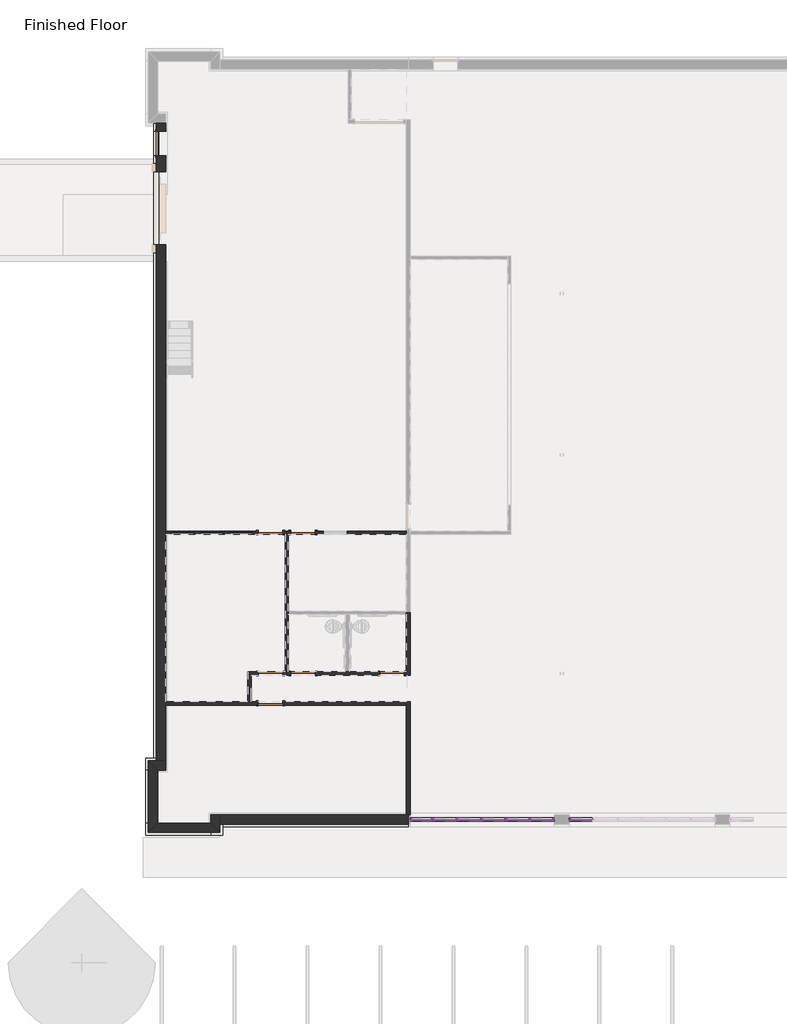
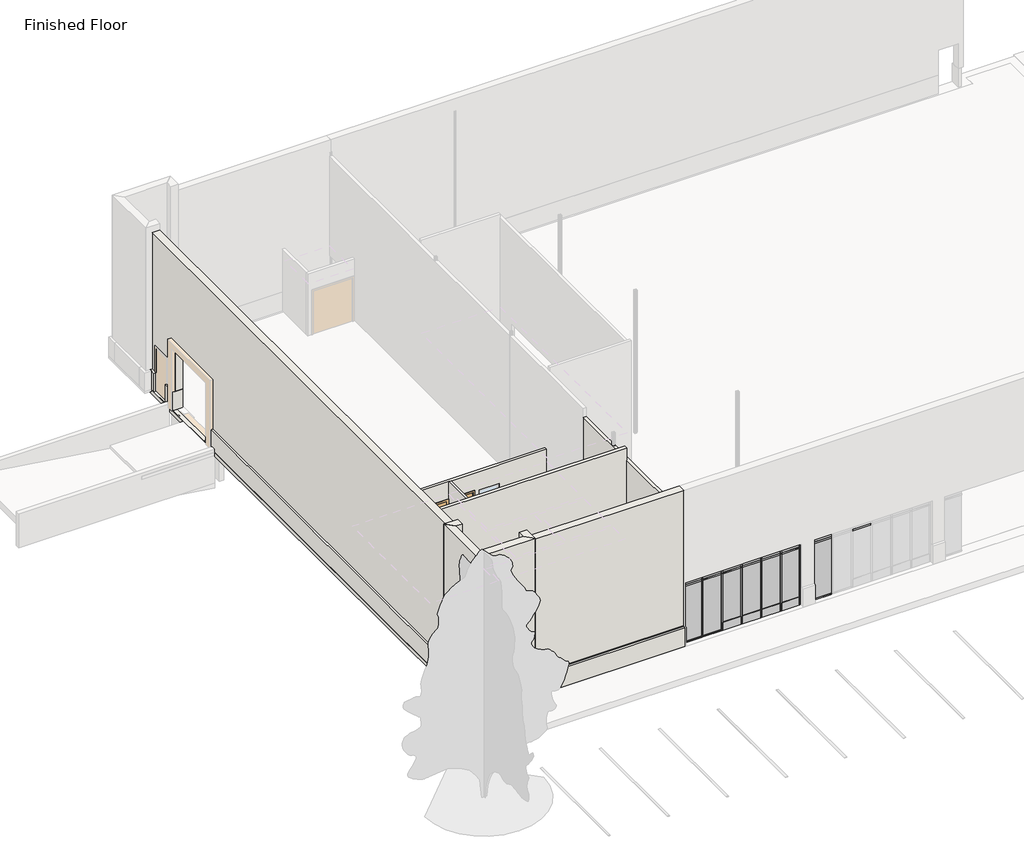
# One storey, part 1 of 6: 38 members, 21 walls, 14 plates, 6 doors, 3 windows.
"""IFC4 building model written with IfcOpenShell, lengths in millimetres."""

from ifc_helpers import new_model, si_unit, frame, origin, origin_with_axes, place, context, project, spatial, polyline, outline, extrude, faceted_brep, transform, mapped, element, save
from components import door_805e9a83, door_aa02eb04, door_9814c99b, member_d2e7e466, member_7db1855a, member_069002c8, member_a75f139a, member_8a16213d, member_a608d019, member_c17f1be2, member_ad567e07, member_f0d8dbf2, member_eb4c3d57, rectangular_mullion_tall_mullion_dc5872ae, rectangular_mullion_tall_mullion_643de06f, system_panel_glazed_00e77426, system_panel_glazed_d5ca8191, system_panel_glazed_9d8b6f53, system_panel_glazed_0eb5479c, system_panel_glazed_0c1d7574, system_panel_glazed_61942ae4, system_panel_glazed_5c8ca9a5, system_panel_glazed_895e459d, window_51f22951

model = new_model("IFC4")

# Units and contexts
model_context = context("Model", 3, world=origin())
ifc_project = project(units=[si_unit("LENGTHUNIT", "METRE", prefix="MILLI")], contexts=[model_context])

# Site, building, storey
site = spatial("IfcSite", under=ifc_project)
building = spatial("IfcBuilding", under=site)
storey = spatial("IfcBuildingStorey", under=building, Name="Finished Floor", Elevation=0.0)

# Doors
placement = place(None, origin())
door_shape = door_805e9a83(model_context)
element("IfcDoor", 1, ObjectType="Single-Flush : 36\" x 84\"", at=placement, inside=storey, context=model_context, shape_type="MappedRepresentation", body=[
    mapped(door_shape, transform((-16912.4352721, -8735.5875557, 0.0), x_axis=(-1.0, 0.0, 0.0), y_axis=(0.0, -1.0, 0.0), z_axis=(0.0, 0.0, 1.0))),
])
element("IfcDoor", 2, ObjectType="Single-Flush : 36\" x 84\"", at=placement, inside=storey, context=model_context, shape_type="MappedRepresentation", body=[
    mapped(door_shape, transform((-18131.6352721, -3439.6875557, 0.0), x_axis=(1.0, 0.0, 0.0), y_axis=(0.0, 1.0, 0.0), z_axis=(0.0, 0.0, 1.0))),
])
door_2_shape = door_aa02eb04(model_context)
element("IfcDoor", 3, ObjectType="Single-Flush : 36\" x 84\"", at=placement, inside=storey, context=model_context, shape_type="MappedRepresentation", body=[
    mapped(door_2_shape, transform((-13562.8102721, -8735.5875557, 0.0), x_axis=(1.0, 0.0, 0.0), y_axis=(0.0, 1.0, 0.0), z_axis=(0.0, 0.0, 1.0))),
])
element("IfcDoor", 4, ObjectType="Single-Flush : 36\" x 84\" 20Min", at=placement, inside=storey, context=model_context, shape_type="MappedRepresentation", body=[
    mapped(door_2_shape, transform((-18131.6352721, -8735.5875557, 0.0), x_axis=(1.0, 0.0, 0.0), y_axis=(0.0, 1.0, 0.0), z_axis=(0.0, 0.0, 1.0))),
])
element("IfcDoor", 5, ObjectType="Single-Flush : 36\" x 84\" 20Min", at=placement, inside=storey, context=model_context, shape_type="MappedRepresentation", body=[
    mapped(door_2_shape, transform((-16912.4352721, -3439.6875557, 0.0), x_axis=(-1.0, 0.0, 0.0), y_axis=(0.0, -1.0, 0.0), z_axis=(0.0, 0.0, 1.0))),
])
door_3_shape = door_9814c99b(model_context)
element("IfcDoor", 6, ObjectType="Single-Flush : 36\" x 84\" 20Min", at=placement, inside=storey, context=model_context, shape_type="MappedRepresentation", body=[
    mapped(door_3_shape, transform((-18131.6352721, -9862.7125557, 0.0), x_axis=(1.0, 0.0, 0.0), y_axis=(0.0, 1.0, 0.0), z_axis=(0.0, 0.0, 1.0))),
])

# Members
member_shape = member_d2e7e466(model_context)
element("IfcMember", 7, ObjectType="Rectangular Mullion : 2.5\" x 5\" rectangular", at=placement, inside=storey, context=model_context, shape_type="MappedRepresentation", body=[
    mapped(member_shape, transform((-9254.3352721, -14230.7188057, 3048.0), x_axis=(0.0, 0.0, 1.0), y_axis=(0.0, 1.0, 0.0), z_axis=(-1.0, 0.0, 0.0))),
])
element("IfcMember", 8, ObjectType="Rectangular Mullion : 2.5\" x 5\" rectangular", at=placement, inside=storey, context=model_context, shape_type="MappedRepresentation", body=[
    mapped(member_shape, transform((-10168.7352721, -14230.7188057, 3048.0), x_axis=(0.0, 0.0, 1.0), y_axis=(0.0, 1.0, 0.0), z_axis=(-1.0, 0.0, 0.0))),
])
element("IfcMember", 9, ObjectType="Rectangular Mullion : 2.5\" x 5\" rectangular", at=placement, inside=storey, context=model_context, shape_type="MappedRepresentation", body=[
    mapped(member_shape, transform((-11083.1352721, -14230.7188057, 3048.0), x_axis=(0.0, 0.0, 1.0), y_axis=(0.0, 1.0, 0.0), z_axis=(-1.0, 0.0, 0.0))),
])
element("IfcMember", 10, ObjectType="Rectangular Mullion : 2.5\" x 5\" rectangular", at=placement, inside=storey, context=model_context, shape_type="MappedRepresentation", body=[
    mapped(member_shape, transform((-11997.5352721, -14230.7188057, 3048.0), x_axis=(0.0, 0.0, 1.0), y_axis=(0.0, 1.0, 0.0), z_axis=(-1.0, 0.0, 0.0))),
])
member_2_shape = member_7db1855a(model_context)
element("IfcMember", 11, ObjectType="Rectangular Mullion : 2.5\" x 5\" rectangular", at=placement, inside=storey, context=model_context, shape_type="MappedRepresentation", body=[
    mapped(member_2_shape, transform((-9254.3352721, -14230.7188057, 2813.05), x_axis=(0.0, 0.0, 1.0), y_axis=(0.0, 1.0, 0.0), z_axis=(-1.0, 0.0, 0.0))),
])
element("IfcMember", 12, ObjectType="Rectangular Mullion : 2.5\" x 5\" rectangular", at=placement, inside=storey, context=model_context, shape_type="MappedRepresentation", body=[
    mapped(member_2_shape, transform((-10168.7352721, -14230.7188057, 2813.05), x_axis=(0.0, 0.0, 1.0), y_axis=(0.0, 1.0, 0.0), z_axis=(-1.0, 0.0, 0.0))),
])
element("IfcMember", 13, ObjectType="Rectangular Mullion : 2.5\" x 5\" rectangular", at=placement, inside=storey, context=model_context, shape_type="MappedRepresentation", body=[
    mapped(member_2_shape, transform((-11083.1352721, -14230.7188057, 2813.05), x_axis=(0.0, 0.0, 1.0), y_axis=(0.0, 1.0, 0.0), z_axis=(-1.0, 0.0, 0.0))),
])
element("IfcMember", 14, ObjectType="Rectangular Mullion : 2.5\" x 5\" rectangular", at=placement, inside=storey, context=model_context, shape_type="MappedRepresentation", body=[
    mapped(member_2_shape, transform((-5037.9352721, -14230.7188057, 2813.05), x_axis=(0.0, 0.0, 1.0), y_axis=(0.0, 1.0, 0.0), z_axis=(-1.0, 0.0, 0.0))),
])
element("IfcMember", 15, ObjectType="Rectangular Mullion : 2.5\" x 5\" rectangular", at=placement, inside=storey, context=model_context, shape_type="MappedRepresentation", body=[
    mapped(member_2_shape, transform((-11997.5352721, -14230.7188057, 2813.05), x_axis=(0.0, 0.0, 1.0), y_axis=(0.0, 1.0, 0.0), z_axis=(-1.0, 0.0, 0.0))),
])
element("IfcMember", 16, ObjectType="Rectangular Mullion : 2.5\" x 5\" rectangular", at=placement, inside=storey, context=model_context, shape_type="MappedRepresentation", body=[
    mapped(member_shape, transform((-11146.6352721, -14230.7188057, 0.0), x_axis=(0.0, 0.0, -1.0), y_axis=(0.0, 1.0, 0.0), z_axis=(1.0, 0.0, 0.0))),
])
member_3_shape = member_069002c8(model_context)
element("IfcMember", 17, ObjectType="Rectangular Mullion : 2.5\" x 5\" rectangular", at=placement, inside=storey, context=model_context, shape_type="MappedRepresentation", body=[
    mapped(member_3_shape, transform((-8371.6852721, -14230.7188057, 0.0), x_axis=(-1.0, 0.0, 0.0), y_axis=(0.0, 1.0, 0.0), z_axis=(0.0, 0.0, -1.0))),
])
element("IfcMember", 18, ObjectType="Rectangular Mullion : 2.5\" x 5\" rectangular", at=placement, inside=storey, context=model_context, shape_type="MappedRepresentation", body=[
    mapped(member_3_shape, transform((-9286.0852721, -14230.7188057, 0.0), x_axis=(-1.0, 0.0, 0.0), y_axis=(0.0, 1.0, 0.0), z_axis=(0.0, 0.0, -1.0))),
])
element("IfcMember", 19, ObjectType="Rectangular Mullion : 2.5\" x 5\" rectangular", at=placement, inside=storey, context=model_context, shape_type="MappedRepresentation", body=[
    mapped(member_3_shape, transform((-10200.4852721, -14230.7188057, 0.0), x_axis=(-1.0, 0.0, 0.0), y_axis=(0.0, 1.0, 0.0), z_axis=(0.0, 0.0, -1.0))),
])
element("IfcMember", 20, ObjectType="Rectangular Mullion : 2.5\" x 5\" rectangular", at=placement, inside=storey, context=model_context, shape_type="MappedRepresentation", body=[
    mapped(member_3_shape, transform((-11114.8852721, -14230.7188057, 0.0), x_axis=(-1.0, 0.0, 0.0), y_axis=(0.0, 1.0, 0.0), z_axis=(0.0, 0.0, -1.0))),
])
element("IfcMember", 21, ObjectType="Rectangular Mullion : 2.5\" x 5\" rectangular", at=placement, inside=storey, context=model_context, shape_type="MappedRepresentation", body=[
    mapped(member_3_shape, transform((-12029.2852721, -14230.7188057, 0.0), x_axis=(-1.0, 0.0, 0.0), y_axis=(0.0, 1.0, 0.0), z_axis=(0.0, 0.0, -1.0))),
])
member_4_shape = member_a75f139a(model_context)
element("IfcMember", 22, ObjectType="Rectangular Mullion : 2.5\" x 5\" rectangular", at=placement, inside=storey, context=model_context, shape_type="MappedRepresentation", body=[
    mapped(member_4_shape, transform((-8371.6852721, -14230.7188057, 2813.05), x_axis=(-1.0, 0.0, 0.0), y_axis=(0.0, 1.0, 0.0), z_axis=(0.0, 0.0, -1.0))),
])
element("IfcMember", 23, ObjectType="Rectangular Mullion : 2.5\" x 5\" rectangular", at=placement, inside=storey, context=model_context, shape_type="MappedRepresentation", body=[
    mapped(member_4_shape, transform((-9286.0852721, -14230.7188057, 2813.05), x_axis=(-1.0, 0.0, 0.0), y_axis=(0.0, 1.0, 0.0), z_axis=(0.0, 0.0, -1.0))),
])
element("IfcMember", 24, ObjectType="Rectangular Mullion : 2.5\" x 5\" rectangular", at=placement, inside=storey, context=model_context, shape_type="MappedRepresentation", body=[
    mapped(member_4_shape, transform((-10200.4852721, -14230.7188057, 2813.05), x_axis=(-1.0, 0.0, 0.0), y_axis=(0.0, 1.0, 0.0), z_axis=(0.0, 0.0, -1.0))),
])
element("IfcMember", 25, ObjectType="Rectangular Mullion : 2.5\" x 5\" rectangular", at=placement, inside=storey, context=model_context, shape_type="MappedRepresentation", body=[
    mapped(member_4_shape, transform((-11114.8852721, -14230.7188057, 2813.05), x_axis=(-1.0, 0.0, 0.0), y_axis=(0.0, 1.0, 0.0), z_axis=(0.0, 0.0, -1.0))),
])
element("IfcMember", 26, ObjectType="Rectangular Mullion : 2.5\" x 5\" rectangular", at=placement, inside=storey, context=model_context, shape_type="MappedRepresentation", body=[
    mapped(member_4_shape, transform((-12029.2852721, -14230.7188057, 2813.05), x_axis=(-1.0, 0.0, 0.0), y_axis=(0.0, 1.0, 0.0), z_axis=(0.0, 0.0, -1.0))),
])
member_5_shape = member_8a16213d(model_context)
element("IfcMember", 27, ObjectType="Rectangular Mullion : 2.5\" x 5\" rectangular", at=placement, inside=storey, context=model_context, shape_type="MappedRepresentation", body=[
    mapped(member_5_shape, transform((-12883.3602721, -14230.7188057, 0.0), x_axis=(-1.0, 0.0, 0.0), y_axis=(0.0, 1.0, 0.0), z_axis=(0.0, 0.0, -1.0))),
])
element("IfcMember", 28, ObjectType="Rectangular Mullion : 2.5\" x 5\" rectangular", at=placement, inside=storey, context=model_context, shape_type="MappedRepresentation", body=[
    mapped(member_5_shape, transform((-6898.4852721, -14230.7188057, 0.0), x_axis=(-1.0, 0.0, 0.0), y_axis=(0.0, 1.0, 0.0), z_axis=(0.0, 0.0, -1.0))),
])
member_6_shape = member_a608d019(model_context)
element("IfcMember", 29, ObjectType="Rectangular Mullion : 2.5\" x 5\" rectangular", at=placement, inside=storey, context=model_context, shape_type="MappedRepresentation", body=[
    mapped(member_6_shape, transform((-12883.3602721, -14230.7188057, 2813.05), x_axis=(-1.0, 0.0, 0.0), y_axis=(0.0, 1.0, 0.0), z_axis=(0.0, 0.0, -1.0))),
])
element("IfcMember", 30, ObjectType="Rectangular Mullion : 2.5\" x 5\" rectangular", at=placement, inside=storey, context=model_context, shape_type="MappedRepresentation", body=[
    mapped(member_6_shape, transform((-6898.4852721, -14230.7188057, 2813.05), x_axis=(-1.0, 0.0, 0.0), y_axis=(0.0, 1.0, 0.0), z_axis=(0.0, 0.0, -1.0))),
])
element("IfcMember", 31, ObjectType="Rectangular Mullion : 2.5\" x 5\" rectangular", at=placement, inside=storey, context=model_context, shape_type="MappedRepresentation", body=[
    mapped(member_6_shape, transform((-7457.2852721, -14230.7188057, 3048.0), x_axis=(1.0, 0.0, 0.0), y_axis=(0.0, 1.0, 0.0), z_axis=(0.0, 0.0, 1.0))),
])
element("IfcMember", 32, ObjectType="Rectangular Mullion : 2.5\" x 5\" rectangular", at=placement, inside=storey, context=model_context, shape_type="MappedRepresentation", body=[
    mapped(member_5_shape, transform((-7457.2852721, -14230.7188057, 2813.05), x_axis=(1.0, 0.0, 0.0), y_axis=(0.0, 1.0, 0.0), z_axis=(0.0, 0.0, 1.0))),
])
member_7_shape = member_c17f1be2(model_context)
element("IfcMember", 33, ObjectType="Rectangular Mullion : 2.5\" x 5\" rectangular", at=placement, inside=storey, context=model_context, shape_type="MappedRepresentation", body=[
    mapped(member_7_shape, transform((-8339.9352721, -14230.7188057, 3048.0), x_axis=(0.0, 0.0, 1.0), y_axis=(0.0, 1.0, 0.0), z_axis=(-1.0, 0.0, 0.0))),
])
element("IfcMember", 34, ObjectType="Rectangular Mullion : 2.5\" x 5\" rectangular", at=placement, inside=storey, context=model_context, shape_type="MappedRepresentation", body=[
    mapped(member_7_shape, transform((-6834.9852721, -14230.7188057, 3048.0), x_axis=(0.0, 0.0, 1.0), y_axis=(0.0, 1.0, 0.0), z_axis=(-1.0, 0.0, 0.0))),
])
member_8_shape = member_ad567e07(model_context)
element("IfcMember", 35, ObjectType="Rectangular Mullion : 2.5\" x 5\" rectangular", at=placement, inside=storey, context=model_context, shape_type="MappedRepresentation", body=[
    mapped(member_8_shape, transform((-8339.9352721, -14230.7188057, 2813.05), x_axis=(0.0, 0.0, 1.0), y_axis=(0.0, 1.0, 0.0), z_axis=(-1.0, 0.0, 0.0))),
])
element("IfcMember", 36, ObjectType="Rectangular Mullion : 2.5\" x 5\" rectangular", at=placement, inside=storey, context=model_context, shape_type="MappedRepresentation", body=[
    mapped(member_8_shape, transform((-6834.9852721, -14230.7188057, 2813.05), x_axis=(0.0, 0.0, 1.0), y_axis=(0.0, 1.0, 0.0), z_axis=(-1.0, 0.0, 0.0))),
])
element("IfcMember", 37, ObjectType="Rectangular Mullion : 2.5\" x 5\" rectangular", at=placement, inside=storey, context=model_context, shape_type="MappedRepresentation", body=[
    mapped(member_7_shape, transform((-6015.8352721, -14230.7188057, 0.0), x_axis=(0.0, 0.0, -1.0), y_axis=(0.0, 1.0, 0.0), z_axis=(1.0, 0.0, 0.0))),
])
member_9_shape = member_f0d8dbf2(model_context)
element("IfcMember", 38, ObjectType="Rectangular Mullion : 2.5\" x 5\" rectangular", at=placement, inside=storey, context=model_context, shape_type="MappedRepresentation", body=[
    mapped(member_9_shape, transform((-12819.8602721, -14230.7188057, 3048.0), x_axis=(0.0, 0.0, 1.0), y_axis=(0.0, 1.0, 0.0), z_axis=(-1.0, 0.0, 0.0))),
])
element("IfcMember", 39, ObjectType="Rectangular Mullion : 2.5\" x 5\" rectangular", at=placement, inside=storey, context=model_context, shape_type="MappedRepresentation", body=[
    mapped(member_9_shape, transform((-12061.0352721, -14230.7188057, 0.0), x_axis=(0.0, 0.0, -1.0), y_axis=(0.0, 1.0, 0.0), z_axis=(1.0, 0.0, 0.0))),
])
member_10_shape = member_eb4c3d57(model_context)
element("IfcMember", 40, ObjectType="Rectangular Mullion : 2.5\" x 5\" rectangular", at=placement, inside=storey, context=model_context, shape_type="MappedRepresentation", body=[
    mapped(member_10_shape, transform((-12819.8602721, -14230.7188057, 2813.05), x_axis=(0.0, 0.0, 1.0), y_axis=(0.0, 1.0, 0.0), z_axis=(-1.0, 0.0, 0.0))),
])
rectangular_mullion_tall_mullion_shape = rectangular_mullion_tall_mullion_dc5872ae(model_context)
element("IfcMember", 41, ObjectType="Rectangular Mullion : Tall Mullion", at=placement, inside=storey, context=model_context, shape_type="MappedRepresentation", body=[
    mapped(rectangular_mullion_tall_mullion_shape, transform((-8403.4352721, -14230.7188057, 0.0), x_axis=(0.0, 0.0, -1.0), y_axis=(0.0, 1.0, 0.0), z_axis=(1.0, 0.0, 0.0))),
])
element("IfcMember", 42, ObjectType="Rectangular Mullion : Tall Mullion", at=placement, inside=storey, context=model_context, shape_type="MappedRepresentation", body=[
    mapped(rectangular_mullion_tall_mullion_shape, transform((-9317.8352721, -14230.7188057, 0.0), x_axis=(0.0, 0.0, -1.0), y_axis=(0.0, 1.0, 0.0), z_axis=(1.0, 0.0, 0.0))),
])
element("IfcMember", 43, ObjectType="Rectangular Mullion : Tall Mullion", at=placement, inside=storey, context=model_context, shape_type="MappedRepresentation", body=[
    mapped(rectangular_mullion_tall_mullion_shape, transform((-10232.2352721, -14230.7188057, 0.0), x_axis=(0.0, 0.0, -1.0), y_axis=(0.0, 1.0, 0.0), z_axis=(1.0, 0.0, 0.0))),
])
rectangular_mullion_tall_mullion_2_shape = rectangular_mullion_tall_mullion_643de06f(model_context)
element("IfcMember", 44, ObjectType="Rectangular Mullion : Tall Mullion", at=placement, inside=storey, context=model_context, shape_type="MappedRepresentation", body=[
    mapped(rectangular_mullion_tall_mullion_2_shape, transform((-7520.7852721, -14230.7188057, 0.0), x_axis=(0.0, 0.0, -1.0), y_axis=(0.0, 1.0, 0.0), z_axis=(1.0, 0.0, 0.0))),
])

# Plates
system_panel_glazed_shape = system_panel_glazed_00e77426(model_context)
element("IfcPlate", 45, ObjectType="System Panel : Glazed", at=placement, inside=storey, context=model_context, shape_type="MappedRepresentation", body=[
    mapped(system_panel_glazed_shape, transform((-8828.8852721, -14230.7188057, 406.4), x_axis=(-1.0, 0.0, 0.0), y_axis=(0.0, -1.0, 0.0), z_axis=(0.0, 0.0, 1.0))),
])
element("IfcPlate", 46, ObjectType="System Panel : Glazed", at=placement, inside=storey, context=model_context, shape_type="MappedRepresentation", body=[
    mapped(system_panel_glazed_shape, transform((-9743.2852721, -14230.7188057, 406.4), x_axis=(-1.0, 0.0, 0.0), y_axis=(0.0, -1.0, 0.0), z_axis=(0.0, 0.0, 1.0))),
])
element("IfcPlate", 47, ObjectType="System Panel : Glazed", at=placement, inside=storey, context=model_context, shape_type="MappedRepresentation", body=[
    mapped(system_panel_glazed_shape, transform((-10657.6852721, -14230.7188057, 406.4), x_axis=(-1.0, 0.0, 0.0), y_axis=(0.0, -1.0, 0.0), z_axis=(0.0, 0.0, 1.0))),
])
system_panel_glazed_2_shape = system_panel_glazed_d5ca8191(model_context)
element("IfcPlate", 48, ObjectType="System Panel : Glazed", at=placement, inside=storey, context=model_context, shape_type="MappedRepresentation", body=[
    mapped(system_panel_glazed_2_shape, transform((-8828.8852721, -14230.7188057, 2844.8), x_axis=(-1.0, 0.0, 0.0), y_axis=(0.0, -1.0, 0.0), z_axis=(0.0, 0.0, 1.0))),
])
element("IfcPlate", 49, ObjectType="System Panel : Glazed", at=placement, inside=storey, context=model_context, shape_type="MappedRepresentation", body=[
    mapped(system_panel_glazed_2_shape, transform((-9743.2852721, -14230.7188057, 2844.8), x_axis=(-1.0, 0.0, 0.0), y_axis=(0.0, -1.0, 0.0), z_axis=(0.0, 0.0, 1.0))),
])
element("IfcPlate", 50, ObjectType="System Panel : Glazed", at=placement, inside=storey, context=model_context, shape_type="MappedRepresentation", body=[
    mapped(system_panel_glazed_2_shape, transform((-10657.6852721, -14230.7188057, 2844.8), x_axis=(-1.0, 0.0, 0.0), y_axis=(0.0, -1.0, 0.0), z_axis=(0.0, 0.0, 1.0))),
])
element("IfcPlate", 51, ObjectType="System Panel : Glazed", at=placement, inside=storey, context=model_context, shape_type="MappedRepresentation", body=[
    mapped(system_panel_glazed_2_shape, transform((-11572.0852721, -14230.7188057, 2844.8), x_axis=(-1.0, 0.0, 0.0), y_axis=(0.0, -1.0, 0.0), z_axis=(0.0, 0.0, 1.0))),
])
system_panel_glazed_3_shape = system_panel_glazed_9d8b6f53(model_context)
element("IfcPlate", 52, ObjectType="System Panel : Glazed", at=placement, inside=storey, context=model_context, shape_type="MappedRepresentation", body=[
    mapped(system_panel_glazed_3_shape, transform((-11572.0852721, -14230.7188057, 63.5), x_axis=(-1.0, 0.0, 0.0), y_axis=(0.0, -1.0, 0.0), z_axis=(0.0, 0.0, 1.0))),
])
system_panel_glazed_4_shape = system_panel_glazed_0eb5479c(model_context)
element("IfcPlate", 53, ObjectType="System Panel : Glazed", at=placement, inside=storey, context=model_context, shape_type="MappedRepresentation", body=[
    mapped(system_panel_glazed_4_shape, transform((-7930.3602721, -14230.7188057, 406.4), x_axis=(-1.0, 0.0, 0.0), y_axis=(0.0, -1.0, 0.0), z_axis=(0.0, 0.0, 1.0))),
])
system_panel_glazed_5_shape = system_panel_glazed_0c1d7574(model_context)
element("IfcPlate", 54, ObjectType="System Panel : Glazed", at=placement, inside=storey, context=model_context, shape_type="MappedRepresentation", body=[
    mapped(system_panel_glazed_5_shape, transform((-7930.3602721, -14230.7188057, 2844.8), x_axis=(-1.0, 0.0, 0.0), y_axis=(0.0, -1.0, 0.0), z_axis=(0.0, 0.0, 1.0))),
])
element("IfcPlate", 55, ObjectType="System Panel : Glazed", at=placement, inside=storey, context=model_context, shape_type="MappedRepresentation", body=[
    mapped(system_panel_glazed_5_shape, transform((-6425.4102721, -14230.7188057, 2844.8), x_axis=(-1.0, 0.0, 0.0), y_axis=(0.0, -1.0, 0.0), z_axis=(0.0, 0.0, 1.0))),
])
system_panel_glazed_6_shape = system_panel_glazed_61942ae4(model_context)
element("IfcPlate", 56, ObjectType="System Panel : Glazed", at=placement, inside=storey, context=model_context, shape_type="MappedRepresentation", body=[
    mapped(system_panel_glazed_6_shape, transform((-6425.4102721, -14230.7188057, 63.5), x_axis=(-1.0, 0.0, 0.0), y_axis=(0.0, -1.0, 0.0), z_axis=(0.0, 0.0, 1.0))),
])
system_panel_glazed_7_shape = system_panel_glazed_5c8ca9a5(model_context)
element("IfcPlate", 57, ObjectType="System Panel : Glazed", at=placement, inside=storey, context=model_context, shape_type="MappedRepresentation", body=[
    mapped(system_panel_glazed_7_shape, transform((-12440.4477721, -14230.7188057, 63.5), x_axis=(-1.0, 0.0, 0.0), y_axis=(0.0, -1.0, 0.0), z_axis=(0.0, 0.0, 1.0))),
])
system_panel_glazed_8_shape = system_panel_glazed_895e459d(model_context)
element("IfcPlate", 58, ObjectType="System Panel : Glazed", at=placement, inside=storey, context=model_context, shape_type="MappedRepresentation", body=[
    mapped(system_panel_glazed_8_shape, transform((-12440.4477721, -14230.7188057, 2844.8), x_axis=(-1.0, 0.0, 0.0), y_axis=(0.0, -1.0, 0.0), z_axis=(0.0, 0.0, 1.0))),
])

# Walls
element("IfcWall", 59, ObjectType="Exterior - Brick on Mtl. Stud", at=placement, inside=storey, context=model_context, shape_type="SweptSolid", body=[
    extrude(outline(polyline([(-14054.5063057, 7620.0), (-14054.5063057, 914.4), (-14397.4063057, 914.4), (-14397.4063057, 984.25), (-14406.9313057, 984.25), (-14406.9313057, 7620.0), (-14054.5063057, 7620.0)])), frame((-20031.8727721, 0.0, 0.0), z_axis=(1.0, 0.0, 0.0), x_axis=(0.0, 1.0, 0.0)), (0.0, 0.0, 1.0), 7078.6625),
])
element("IfcWall", 60, ObjectType="Exterior - Brick on Mtl. Stud", at=placement, inside=storey, context=model_context, shape_type="SweptSolid", body=[
    extrude(outline(polyline([(-20384.2977721, -14359.3063057), (-20384.2977721, -14054.5063057), (-20031.8727721, -14054.5063057), (-20031.8727721, -14711.7313057), (-20384.2977721, -14359.3063057)])), frame((0.0, 0.0, 914.4), z_axis=(0.0, 0.0, 1.0), x_axis=(1.0, 0.0, 0.0)), (0.0, 0.0, 1.0), 7010.4),
])
element("IfcWall", 61, ObjectType="Exterior - Brick on Mtl. Stud", at=placement, inside=storey, context=model_context, shape_type="SweptSolid", body=[
    extrude(outline(polyline([(-22371.8477721, -14359.3063057), (-20384.2977721, -14359.3063057), (-20031.8727721, -14711.7313057), (-22724.2727721, -14711.7313057), (-22371.8477721, -14359.3063057)])), frame((0.0, 0.0, 914.4), z_axis=(0.0, 0.0, 1.0), x_axis=(1.0, 0.0, 0.0)), (0.0, 0.0, 1.0), 7010.4),
])
element("IfcWall", 62, ObjectType="Exterior - Brick on Mtl. Stud", at=placement, inside=storey, context=model_context, shape_type="SweptSolid", body=[
    extrude(outline(polyline([(-22371.8477721, -12371.7563057), (-22371.8477721, -14359.3063057), (-22724.2727721, -14711.7313057), (-22724.2727721, -12019.3313057), (-22371.8477721, -12371.7563057)])), frame((0.0, 0.0, 914.4), z_axis=(0.0, 0.0, 1.0), x_axis=(1.0, 0.0, 0.0)), (0.0, 0.0, 1.0), 7010.4),
])
element("IfcWall", 63, ObjectType="Exterior - Brick on Mtl. Stud", at=placement, inside=storey, context=model_context, shape_type="SweptSolid", body=[
    extrude(outline(polyline([(-22067.0477721, -12371.7563057), (-22371.8477721, -12371.7563057), (-22724.2727721, -12019.3313057), (-22067.0477721, -12019.3313057), (-22067.0477721, -12371.7563057)])), frame((0.0, 0.0, 914.4), z_axis=(0.0, 0.0, 1.0), x_axis=(1.0, 0.0, 0.0)), (0.0, 0.0, 1.0), 7010.4),
])
element("IfcWall", 64, ObjectType="Exterior - Brick on Mtl. Stud", at=placement, inside=storey, context=model_context, shape_type="SweptSolid", body=[
    extrude(outline(polyline([(11958.2686943, 7620.0), (11958.2686943, 914.4), (11653.4686943, 914.4), (11653.4686943, 2133.6), (10739.0686943, 2133.6), (10739.0686943, 914.4), (10129.4686943, 914.4), (10129.4686943, 3048.0), (7386.2686943, 3048.0), (7386.2686943, 914.4), (-12019.3313057, 914.4), (-12019.3313057, 7620.0), (11958.2686943, 7620.0)])), frame((-22419.4727721, 0.0, 0.0), z_axis=(1.0, 0.0, 0.0), x_axis=(0.0, 1.0, 0.0)), (0.0, 0.0, 1.0), 352.425),
])
element("IfcWall", 65, ObjectType="Exterior - CMU on Mtl. Stud", at=placement, inside=storey, context=model_context, shape_type="Brep", body=[
    faceted_brep([(-12953.2102721, -14054.5063057, 0.0), (-13023.0602721, -14054.5063057, 0.0), (-20031.8727721, -14054.5063057, 0.0), (-20031.8727721, -14054.5063057, 914.4), (-12953.2102721, -14054.5063057, 914.4), (-12953.2102721, -14508.5313057, 0.0), (-12953.2102721, -14508.5313057, 914.4), (-20031.8727721, -14508.5313057, 914.4), (-20031.8727721, -14508.5313057, 0.0), (-20031.8727721, -14314.8563057, 0.0), (-20031.8727721, -14397.4063057, 914.4), (-12953.2102721, -14397.4063057, 914.4), (-12953.2102721, -14314.8563057, 0.0)], [[[0, 1, 2, 3, 4]], [[5, 6, 7, 8]], [[3, 2, 9, 8, 7, 10]], [[4, 3, 10, 7, 6, 11]], [[0, 4, 11, 6, 5, 12]], [[2, 1, 0, 12, 9]], [[12, 5, 8, 9]]]),
])
element("IfcWall", 66, ObjectType="Exterior - CMU on Mtl. Stud", at=placement, inside=storey, context=model_context, shape_type="Brep", body=[
    faceted_brep([(-20384.2977721, -14054.5063057, 0.0), (-20384.2977721, -14359.3063057, 0.0), (-20384.2977721, -14813.3313057, 0.0), (-20384.2977721, -14813.3313057, 914.4), (-20384.2977721, -14359.3063057, 914.4), (-20384.2977721, -14054.5063057, 914.4), (-19930.2727721, -14054.5063057, 0.0), (-19930.2727721, -14054.5063057, 914.4), (-19930.2727721, -14813.3313057, 914.4), (-19930.2727721, -14813.3313057, 0.0), (-20031.8727721, -14054.5063057, 914.4), (-20041.3977721, -14054.5063057, 914.4), (-20123.9477721, -14054.5063057, 0.0), (-20123.9477721, -14813.3313057, 0.0)], [[[0, 1, 2, 3, 4, 5]], [[6, 7, 8, 9]], [[5, 4, 3, 8, 7, 10, 11]], [[0, 5, 11, 10, 7, 6, 12]], [[3, 2, 13, 9, 8]], [[2, 1, 0, 12, 13]], [[12, 6, 9, 13]]]),
])
element("IfcWall", 67, ObjectType="Exterior - CMU on Mtl. Stud", at=placement, inside=storey, context=model_context, shape_type="Brep", body=[
    faceted_brep([(-20384.2977721, -14359.3063057, 0.0), (-22371.8477721, -14359.3063057, 0.0), (-22825.8727721, -14359.3063057, 0.0), (-22825.8727721, -14359.3063057, 914.4), (-22371.8477721, -14359.3063057, 914.4), (-20384.2977721, -14359.3063057, 914.4), (-20384.2977721, -14813.3313057, 0.0), (-20384.2977721, -14813.3313057, 914.4), (-22825.8727721, -14813.3313057, 914.4), (-22825.8727721, -14813.3313057, 0.0), (-20384.2977721, -14619.6563057, 0.0), (-22825.8727721, -14619.6563057, 0.0)], [[[0, 1, 2, 3, 4, 5]], [[6, 7, 8, 9]], [[5, 4, 3, 8, 7]], [[0, 5, 7, 6, 10]], [[3, 2, 11, 9, 8]], [[2, 1, 0, 10, 11]], [[10, 6, 9, 11]]]),
])
element("IfcWall", 68, ObjectType="Exterior - CMU on Mtl. Stud", at=placement, inside=storey, context=model_context, shape_type="SweptSolid", body=[
    extrude(outline(polyline([(0.0, -22371.8477721), (914.4, -22371.8477721), (914.4, -22825.8727721), (0.0, -22825.8727721), (0.0, -22632.1977721), (0.0, -22371.8477721)])), frame((0.0, -14359.3063057, 0.0), z_axis=(0.0, 1.0, 0.0), x_axis=(0.0, 0.0, 1.0)), (0.0, 0.0, 1.0), 1987.55),
])
element("IfcWall", 69, ObjectType="Exterior - CMU on Mtl. Stud", at=placement, inside=storey, context=model_context, shape_type="Brep", body=[
    faceted_brep([(-22825.8727721, -12371.7563057, 0.0), (-22371.8477721, -12371.7563057, 0.0), (-22067.0477721, -12371.7563057, 0.0), (-22067.0477721, -12371.7563057, 914.4), (-22371.8477721, -12371.7563057, 914.4), (-22825.8727721, -12371.7563057, 914.4), (-22825.8727721, -11917.7313057, 0.0), (-22825.8727721, -11917.7313057, 914.4), (-22067.0477721, -11917.7313057, 914.4), (-22067.0477721, -11917.7313057, 0.0), (-22067.0477721, -12111.4063057, 0.0), (-22067.0477721, -12019.3313057, 914.4), (-22067.0477721, -12028.8563057, 914.4), (-22825.8727721, -12111.4063057, 0.0)], [[[0, 1, 2, 3, 4, 5]], [[6, 7, 8, 9]], [[3, 2, 10, 9, 8, 11, 12]], [[5, 4, 3, 12, 11, 8, 7]], [[0, 5, 7, 6, 13]], [[2, 1, 0, 13, 10]], [[13, 6, 9, 10]]]),
])
element("IfcWall", 70, ObjectType="Exterior - CMU on Mtl. Stud", at=placement, inside=storey, context=model_context, shape_type="Brep", body=[
    faceted_brep([(-22067.0477721, 11958.2686943, 0.0), (-22067.0477721, 11958.2686943, 914.4), (-22067.0477721, 11653.4686943, 914.4), (-22067.0477721, 11653.4686943, 0.0), (-22067.0477721, -12019.3313057, 914.4), (-22067.0477721, -12019.3313057, 0.0), (-22067.0477721, -9932.5625557, 0.0), (-22067.0477721, -9792.8625557, 0.0), (-22067.0477721, -3500.0125557, 0.0), (-22067.0477721, -3379.3625557, 0.0), (-22067.0477721, 7386.2686943, 0.0), (-22067.0477721, 7386.2686943, 914.4), (-22067.0477721, 10739.0686943, 0.0), (-22067.0477721, 10739.0686943, 914.4), (-22067.0477721, 10129.4686943, 914.4), (-22067.0477721, 10129.4686943, 0.0), (-22521.0727721, 11958.2686943, 914.4), (-22521.0727721, 11958.2686943, -203.2), (-22521.0727721, -12019.3313057, -203.2), (-22521.0727721, -12019.3313057, 914.4), (-22521.0727721, 7386.2686943, 914.4), (-22521.0727721, 7386.2686943, 0.0), (-22521.0727721, 10129.4686943, 0.0), (-22521.0727721, 10129.4686943, 914.4), (-22521.0727721, 10739.0686943, 914.4), (-22521.0727721, 10739.0686943, 0.0), (-22521.0727721, 11653.4686943, 0.0), (-22521.0727721, 11653.4686943, 914.4), (-22327.3977721, 11958.2686943, 0.0), (-22327.3977721, 11958.2686943, -203.2), (-22419.4727721, 11958.2686943, 914.4), (-22409.9477721, 11958.2686943, 914.4), (-22419.4727721, -12019.3313057, 914.4), (-22409.9477721, -12019.3313057, 914.4), (-22409.9477721, 7386.2686943, 914.4), (-22419.4727721, 7386.2686943, 914.4), (-22419.4727721, 11653.4686943, 914.4), (-22409.9477721, 11653.4686943, 914.4), (-22409.9477721, 10739.0686943, 914.4), (-22419.4727721, 10739.0686943, 914.4), (-22419.4727721, 10129.4686943, 914.4), (-22409.9477721, 10129.4686943, 914.4), (-22327.3977721, -12019.3313057, -203.2), (-22327.3977721, -12019.3313057, 0.0), (-22327.3977721, 10739.0686943, 0.0), (-22327.3977721, 11653.4686943, 0.0), (-22327.3977721, 7386.2686943, 0.0), (-22327.3977721, 10129.4686943, 0.0)], [[[0, 1, 2, 3]], [[4, 5, 6, 7, 8, 9, 10, 11]], [[12, 13, 14, 15]], [[16, 17, 18, 19, 20, 21, 22, 23, 24, 25, 26, 27]], [[1, 0, 28, 29, 17, 16, 30, 31]], [[19, 32, 33, 4, 11, 34, 35, 20]], [[1, 31, 30, 16, 27, 36, 37, 2]], [[13, 38, 39, 24, 23, 40, 41, 14]], [[5, 4, 33, 32, 19, 18, 42, 43]], [[26, 25, 44, 45]], [[3, 2, 37, 36, 27, 26, 45]], [[13, 12, 44, 25, 24, 39, 38]], [[46, 21, 20, 35, 34, 11, 10]], [[22, 47, 15, 14, 41, 40, 23]], [[21, 46, 47, 22]], [[0, 3, 45, 28]], [[5, 43, 46, 10, 9, 8, 7, 6]], [[44, 12, 15, 47]], [[43, 42, 29, 28, 45, 44, 47, 46]], [[42, 18, 17, 29]]]),
])
element("IfcWall", 71, ObjectType="Interior - 5 1/2\" Partition", at=placement, inside=storey, context=model_context, shape_type="Brep", body=[
    faceted_brep([(-13105.6102721, -8795.9125557, 2133.6), (-13105.6102721, -8795.9125557, 0.0), (-13023.0602721, -8795.9125557, 0.0), (-13023.0602721, -8795.9125557, 2133.6), (-13023.0602721, -8795.9125557, 3048.0), (-15156.6602721, -8795.9125557, 3048.0), (-15156.6602721, -8795.9125557, 0.0), (-14020.0102721, -8795.9125557, 0.0), (-14020.0102721, -8795.9125557, 2133.6), (-13023.0602721, -8675.2625557, 0.0), (-13105.6102721, -8675.2625557, 0.0), (-13105.6102721, -8675.2625557, 2133.6), (-14020.0102721, -8675.2625557, 2133.6), (-14020.0102721, -8675.2625557, 0.0), (-15156.6602721, -8675.2625557, 0.0), (-15156.6602721, -8675.2625557, 3048.0), (-13023.0602721, -8675.2625557, 3048.0)], [[[0, 1, 2, 3, 4, 5, 6, 7, 8]], [[9, 10, 11, 12, 13, 14, 15, 16]], [[7, 6, 14, 13]], [[2, 1, 10, 9]], [[5, 4, 16, 15]], [[6, 5, 15, 14]], [[11, 10, 1, 0]], [[12, 11, 0, 8]], [[13, 12, 8, 7]], [[2, 9, 16, 4, 3]]]),
])
element("IfcWall", 72, ObjectType="Interior - 5 1/2\" Partition", at=placement, inside=storey, context=model_context, shape_type="Brep", body=[
    faceted_brep([(-17582.3602721, -3500.0125557, 0.0), (-17582.3602721, -6525.7875557, 0.0), (-17582.3602721, -6525.7875557, 3048.0), (-17582.3602721, -3500.0125557, 3048.0), (-17461.7102721, -3500.0125557, 0.0), (-17461.7102721, -3500.0125557, 3048.0), (-17461.7102721, -6395.6125557, 3048.0), (-17461.7102721, -6516.2625557, 3048.0), (-17461.7102721, -6525.7875557, 3048.0), (-17461.7102721, -6525.7875557, 0.0), (-17461.7102721, -6516.2625557, 0.0), (-17461.7102721, -6395.6125557, 0.0)], [[[0, 1, 2, 3]], [[4, 5, 6, 7, 8, 9, 10, 11]], [[1, 0, 4, 11, 10, 9]], [[2, 1, 9, 8]], [[3, 2, 8, 7, 6, 5]], [[0, 3, 5, 4]]]),
])
element("IfcWall", 73, ObjectType="Interior - 5 1/2\" Partition", at=placement, inside=storey, context=model_context, shape_type="Brep", body=[
    faceted_brep([(-17369.6352721, -8675.2625557, 2133.6), (-17369.6352721, -8675.2625557, 0.0), (-17461.7102721, -8675.2625557, 0.0), (-17522.0352721, -8675.2625557, 0.0), (-17522.0352721, -8675.2625557, 3048.0), (-17461.7102721, -8675.2625557, 3048.0), (-15328.1102721, -8675.2625557, 3048.0), (-15156.6602721, -8675.2625557, 3048.0), (-15156.6602721, -8675.2625557, 0.0), (-15328.1102721, -8675.2625557, 0.0), (-16455.2352721, -8675.2625557, 0.0), (-16455.2352721, -8675.2625557, 2133.6), (-17522.0352721, -8795.9125557, 0.0), (-17369.6352721, -8795.9125557, 0.0), (-17369.6352721, -8795.9125557, 2133.6), (-16455.2352721, -8795.9125557, 2133.6), (-16455.2352721, -8795.9125557, 0.0), (-15156.6602721, -8795.9125557, 0.0), (-15156.6602721, -8795.9125557, 3048.0), (-17522.0352721, -8795.9125557, 3048.0)], [[[0, 1, 2, 3, 4, 5, 6, 7, 8, 9, 10, 11]], [[12, 13, 14, 15, 16, 17, 18, 19]], [[10, 9, 8, 17, 16]], [[3, 2, 1, 13, 12]], [[4, 3, 12, 19]], [[7, 6, 5, 4, 19, 18]], [[8, 7, 18, 17]], [[14, 13, 1, 0]], [[15, 14, 0, 11]], [[16, 15, 11, 10]]]),
])
element("IfcWall", 74, ObjectType="Interior - 5 1/2\" Partition", at=placement, inside=storey, context=model_context, shape_type="SweptSolid", body=[
    extrude(outline(polyline([(-18979.3602721, -9792.8625557), (-18979.3602721, -8795.9125557), (-18858.7102721, -8795.9125557), (-18858.7102721, -9792.8625557), (-18979.3602721, -9792.8625557)])), origin_with_axes(), (0.0, 0.0, 1.0), 3048.0),
])
element("IfcWall", 75, ObjectType="Interior - 5 1/2\" Partition", at=placement, inside=storey, context=model_context, shape_type="Brep", body=[
    faceted_brep([(-17674.4352721, -3500.0125557, 0.0), (-17582.3602721, -3500.0125557, 0.0), (-17461.7102721, -3500.0125557, 0.0), (-17369.6352721, -3500.0125557, 0.0), (-17369.6352721, -3500.0125557, 2133.6), (-16455.2352721, -3500.0125557, 2133.6), (-16455.2352721, -3500.0125557, 0.0), (-13023.0602721, -3500.0125557, 0.0), (-13023.0602721, -3500.0125557, 3048.0), (-17461.7102721, -3500.0125557, 3048.0), (-17582.3602721, -3500.0125557, 3048.0), (-22067.0477721, -3500.0125557, 3048.0), (-22067.0477721, -3500.0125557, 0.0), (-18588.8352721, -3500.0125557, 0.0), (-18588.8352721, -3500.0125557, 2133.6), (-17674.4352721, -3500.0125557, 2133.6), (-20974.8477721, -3500.0125557, 2133.6), (-20974.8477721, -3500.0125557, 914.4), (-21889.2477721, -3500.0125557, 914.4), (-21889.2477721, -3500.0125557, 2133.6), (-19882.6477721, -3500.0125557, 2133.6), (-19882.6477721, -3500.0125557, 914.4), (-20797.0477721, -3500.0125557, 914.4), (-20797.0477721, -3500.0125557, 2133.6), (-18778.5415221, -3500.0125557, 2133.6), (-18778.5415221, -3500.0125557, 914.4), (-19692.9415221, -3500.0125557, 914.4), (-19692.9415221, -3500.0125557, 2133.6), (-15236.0352721, -3500.0125557, 2133.6), (-15236.0352721, -3500.0125557, 914.4), (-16150.4352721, -3500.0125557, 914.4), (-16150.4352721, -3500.0125557, 2133.6), (-17369.6352721, -3379.3625557, 2133.6), (-17369.6352721, -3379.3625557, 0.0), (-17674.4352721, -3379.3625557, 0.0), (-17674.4352721, -3379.3625557, 2133.6), (-18588.8352721, -3379.3625557, 2133.6), (-18588.8352721, -3379.3625557, 0.0), (-22067.0477721, -3379.3625557, 0.0), (-22067.0477721, -3379.3625557, 3048.0), (-13023.0602721, -3379.3625557, 3048.0), (-13023.0602721, -3379.3625557, 0.0), (-16455.2352721, -3379.3625557, 0.0), (-16455.2352721, -3379.3625557, 2133.6), (-20974.8477721, -3379.3625557, 2133.6), (-21889.2477721, -3379.3625557, 2133.6), (-21889.2477721, -3379.3625557, 914.4), (-20974.8477721, -3379.3625557, 914.4), (-19882.6477721, -3379.3625557, 2133.6), (-20797.0477721, -3379.3625557, 2133.6), (-20797.0477721, -3379.3625557, 914.4), (-19882.6477721, -3379.3625557, 914.4), (-18778.5415221, -3379.3625557, 2133.6), (-19692.9415221, -3379.3625557, 2133.6), (-19692.9415221, -3379.3625557, 914.4), (-18778.5415221, -3379.3625557, 914.4), (-15236.0352721, -3379.3625557, 2133.6), (-16150.4352721, -3379.3625557, 2133.6), (-16150.4352721, -3379.3625557, 914.4), (-15236.0352721, -3379.3625557, 914.4)], [[[0, 1, 2, 3, 4, 5, 6, 7, 8, 9, 10, 11, 12, 13, 14, 15], [16, 17, 18, 19], [20, 21, 22, 23], [24, 25, 26, 27], [28, 29, 30, 31]], [[32, 33, 34, 35, 36, 37, 38, 39, 40, 41, 42, 43], [44, 45, 46, 47], [48, 49, 50, 51], [52, 53, 54, 55], [56, 57, 58, 59]], [[13, 12, 38, 37]], [[42, 41, 7, 6]], [[34, 33, 3, 2, 1, 0]], [[11, 10, 9, 8, 40, 39]], [[8, 7, 41, 40]], [[35, 34, 0, 15]], [[36, 35, 15, 14]], [[37, 36, 14, 13]], [[4, 3, 33, 32]], [[5, 4, 32, 43]], [[6, 5, 43, 42]], [[17, 16, 44, 47]], [[18, 17, 47, 46]], [[19, 18, 46, 45]], [[16, 19, 45, 44]], [[21, 20, 48, 51]], [[22, 21, 51, 50]], [[23, 22, 50, 49]], [[20, 23, 49, 48]], [[25, 24, 52, 55]], [[26, 25, 55, 54]], [[27, 26, 54, 53]], [[24, 27, 53, 52]], [[29, 28, 56, 59]], [[30, 29, 59, 58]], [[31, 30, 58, 57]], [[28, 31, 57, 56]], [[11, 39, 38, 12]]]),
])
element("IfcWall", 76, ObjectType="Interior - 5 1/2\" Partition", at=placement, inside=storey, context=model_context, shape_type="Brep", body=[
    faceted_brep([(-17522.0352721, -8675.2625557, 0.0), (-17582.3602721, -8675.2625557, 0.0), (-17674.4352721, -8675.2625557, 0.0), (-17674.4352721, -8675.2625557, 2133.6), (-18588.8352721, -8675.2625557, 2133.6), (-18588.8352721, -8675.2625557, 0.0), (-18979.3602721, -8675.2625557, 0.0), (-18979.3602721, -8675.2625557, 3048.0), (-17582.3602721, -8675.2625557, 3048.0), (-17522.0352721, -8675.2625557, 3048.0), (-17674.4352721, -8795.9125557, 2133.6), (-17674.4352721, -8795.9125557, 0.0), (-17522.0352721, -8795.9125557, 0.0), (-17522.0352721, -8795.9125557, 3048.0), (-18858.7102721, -8795.9125557, 3048.0), (-18979.3602721, -8795.9125557, 3048.0), (-18979.3602721, -8795.9125557, 0.0), (-18858.7102721, -8795.9125557, 0.0), (-18588.8352721, -8795.9125557, 0.0), (-18588.8352721, -8795.9125557, 2133.6)], [[[0, 1, 2, 3, 4, 5, 6, 7, 8, 9]], [[10, 11, 12, 13, 14, 15, 16, 17, 18, 19]], [[12, 11, 2, 1, 0]], [[18, 17, 16, 6, 5]], [[9, 8, 7, 15, 14, 13]], [[0, 9, 13, 12]], [[7, 6, 16, 15]], [[5, 4, 19, 18]], [[4, 3, 10, 19]], [[3, 2, 11, 10]]]),
])
element("IfcWall", 77, ObjectType="Interior - 5 1/2\" Partition", at=placement, inside=storey, context=model_context, shape_type="Brep", body=[
    faceted_brep([(-17582.3602721, -6525.7875557, 0.0), (-17582.3602721, -8675.2625557, 0.0), (-17582.3602721, -8675.2625557, 3048.0), (-17582.3602721, -6525.7875557, 3048.0), (-17461.7102721, -6525.7875557, 0.0), (-17461.7102721, -6525.7875557, 3048.0), (-17461.7102721, -8675.2625557, 3048.0), (-17461.7102721, -8675.2625557, 0.0), (-17522.0352721, -8675.2625557, 0.0), (-17522.0352721, -8675.2625557, 3048.0)], [[[0, 1, 2, 3]], [[4, 5, 6, 7]], [[1, 0, 4, 7, 8]], [[3, 2, 9, 6, 5]], [[0, 3, 5, 4]], [[2, 1, 8, 7, 6, 9]]]),
])
element("IfcWall", 78, ObjectType="Interior - 5 1/2\" Partition (1-hr)", at=placement, inside=storey, context=model_context, shape_type="Brep", body=[
    faceted_brep([(-12883.3602721, -14054.5063057, 6400.8), (-12883.3602721, -14054.5063057, 3048.0), (-12883.3602721, -14054.5063057, 914.4), (-12883.3602721, -14054.5063057, 0.0), (-12883.3602721, -9792.8625557, 0.0), (-12883.3602721, -9792.8625557, 2133.6), (-12883.3602721, -8795.9125557, 2133.6), (-12883.3602721, -8795.9125557, 0.0), (-12883.3602721, -6455.9375557, 0.0), (-12883.3602721, -6455.9375557, 6400.8), (-13023.0602721, -14054.5063057, 0.0), (-13023.0602721, -14054.5063057, 6400.8), (-13023.0602721, -6455.9375557, 6400.8), (-13023.0602721, -6455.9375557, 0.0), (-13023.0602721, -6516.2625557, 0.0), (-13023.0602721, -8675.2625557, 0.0), (-13023.0602721, -8795.9125557, 0.0), (-13023.0602721, -8795.9125557, 2133.6), (-13023.0602721, -9792.8625557, 2133.6), (-13023.0602721, -9792.8625557, 0.0), (-13023.0602721, -9932.5625557, 0.0), (-12953.2102721, -14054.5063057, 0.0)], [[[0, 1, 2, 3, 4, 5, 6, 7, 8, 9]], [[10, 11, 12, 13, 14, 15, 16, 17, 18, 19, 20]], [[4, 3, 21, 10, 20, 19]], [[6, 5, 18, 17]], [[8, 7, 16, 15, 14, 13]], [[0, 11, 10, 21, 3, 2, 1]], [[7, 6, 17, 16]], [[5, 4, 19, 18]], [[8, 13, 12, 9]], [[0, 9, 12, 11]]]),
])
element("IfcWall", 79, ObjectType="Interior - 5 1/2\" Partition (1-hr)", at=placement, inside=storey, context=model_context, shape_type="Brep", body=[
    faceted_brep([(-13023.0602721, -9792.8625557, 0.0), (-17674.4352721, -9792.8625557, 0.0), (-17674.4352721, -9792.8625557, 2133.6), (-18588.8352721, -9792.8625557, 2133.6), (-18588.8352721, -9792.8625557, 0.0), (-18858.7102721, -9792.8625557, 0.0), (-18979.3602721, -9792.8625557, 0.0), (-22067.0477721, -9792.8625557, 0.0), (-22067.0477721, -9792.8625557, 7010.4), (-13023.0602721, -9792.8625557, 7010.4), (-13023.0602721, -9792.8625557, 2133.6), (-17674.4352721, -9932.5625557, 2133.6), (-17674.4352721, -9932.5625557, 0.0), (-13023.0602721, -9932.5625557, 0.0), (-13023.0602721, -9932.5625557, 7010.4), (-22067.0477721, -9932.5625557, 7010.4), (-22067.0477721, -9932.5625557, 0.0), (-18588.8352721, -9932.5625557, 0.0), (-18588.8352721, -9932.5625557, 2133.6)], [[[0, 1, 2, 3, 4, 5, 6, 7, 8, 9, 10]], [[11, 12, 13, 14, 15, 16, 17, 18]], [[17, 16, 7, 6, 5, 4]], [[13, 12, 1, 0]], [[9, 8, 15, 14]], [[2, 1, 12, 11]], [[3, 2, 11, 18]], [[4, 3, 18, 17]], [[9, 14, 13, 0, 10]], [[7, 16, 15, 8]]]),
])

# Windows
window_shape = window_51f22951(model_context)
element("IfcWindow", 80, ObjectType="Fixed : 36\" x 48\"", at=placement, inside=storey, context=model_context, shape_type="MappedRepresentation", body=[
    mapped(window_shape, transform((-21393.9477721, -3439.6875557, 0.0), x_axis=(1.0, 0.0, 0.0), y_axis=(0.0, 1.0, 0.0), z_axis=(0.0, 0.0, 1.0))),
])
element("IfcWindow", 81, ObjectType="Fixed : 36\" x 48\"", at=placement, inside=storey, context=model_context, shape_type="MappedRepresentation", body=[
    mapped(window_shape, transform((-20301.7477721, -3439.6875557, 0.0), x_axis=(1.0, 0.0, 0.0), y_axis=(0.0, 1.0, 0.0), z_axis=(0.0, 0.0, 1.0))),
])
element("IfcWindow", 82, ObjectType="Fixed : 36\" x 48\"", at=placement, inside=storey, context=model_context, shape_type="MappedRepresentation", body=[
    mapped(window_shape, transform((-19197.6415221, -3439.6875557, 0.0), x_axis=(1.0, 0.0, 0.0), y_axis=(0.0, 1.0, 0.0), z_axis=(0.0, 0.0, 1.0))),
])

save(model, "model.ifc")
